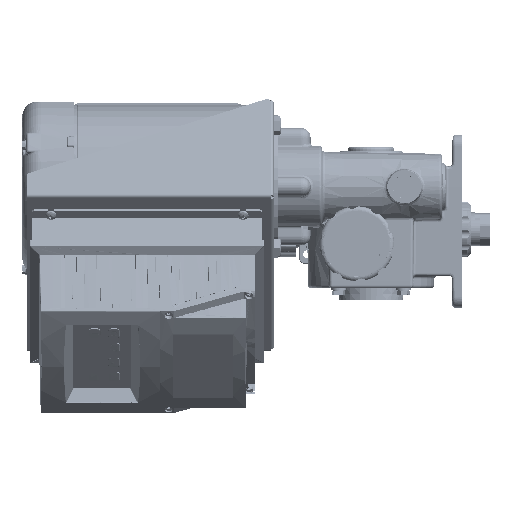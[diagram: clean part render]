
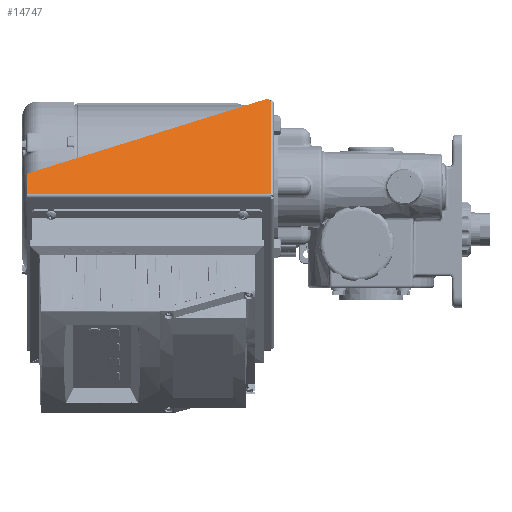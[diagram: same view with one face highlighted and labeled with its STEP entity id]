
A CAD part, left-side view. The second image highlights one B-rep face of the part: STEP entity #14747.
In plain terms, the highlighted planar face has unit normal (-0.707, 0, 0.707).
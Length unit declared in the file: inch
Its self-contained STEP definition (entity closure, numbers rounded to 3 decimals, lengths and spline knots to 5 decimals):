
#7869 = CARTESIAN_POINT ( 'NONE',  ( -9.07372, 12.03098, 0.36134 ) ) ;
#9640 = ORIENTED_EDGE ( 'NONE', *, *, #15162, .T. ) ;
#11804 = LINE ( 'NONE', #207948, #12913 ) ;
#12913 = VECTOR ( 'NONE', #208987, 39.37008 ) ;
#14747 = ADVANCED_FACE ( 'NONE', ( #114145 ), #34112, .F. ) ;
#15162 = EDGE_CURVE ( 'NONE', #165567, #117929, #100894, .T. ) ;
#24211 = CARTESIAN_POINT ( 'NONE',  ( -8.45254, 11.90598, 0.98251 ) ) ;
#25932 = DIRECTION ( 'NONE',  ( -0.285, 0.915, -0.285 ) ) ;
#29857 = DIRECTION ( 'NONE',  ( 0.707, 0., 0.707 ) ) ;
#31131 = VECTOR ( 'NONE', #124019, 39.37008 ) ;
#34112 = PLANE ( 'NONE',  #165275 ) ;
#38318 = DIRECTION ( 'NONE',  ( -0.707, 0., -0.707 ) ) ;
#41471 = DIRECTION ( 'NONE',  ( 0.707, 0., -0.707 ) ) ;
#41974 = VECTOR ( 'NONE', #25932, 39.37008 ) ;
#44216 = VERTEX_POINT ( 'NONE', #140973 ) ;
#51263 = EDGE_CURVE ( 'NONE', #79502, #117549, #11804, .T. ) ;
#52868 = VERTEX_POINT ( 'NONE', #161878 ) ;
#54003 = DIRECTION ( 'NONE',  ( -0.707, 0., -0.707 ) ) ;
#60019 = EDGE_CURVE ( 'NONE', #52868, #44216, #191187, .T. ) ;
#64533 = ORIENTED_EDGE ( 'NONE', *, *, #124169, .T. ) ;
#70253 = AXIS2_PLACEMENT_3D ( 'NONE', #24211, #186165, #170172 ) ;
#76767 = CARTESIAN_POINT ( 'NONE',  ( -8.45254, 12.03098, 0.98251 ) ) ;
#79502 = VERTEX_POINT ( 'NONE', #103666 ) ;
#82475 = EDGE_CURVE ( 'NONE', #44216, #165567, #174008, .T. ) ;
#88475 = CARTESIAN_POINT ( 'NONE',  ( -5.93393, 3.82098, 3.50113 ) ) ;
#90814 = EDGE_LOOP ( 'NONE', ( #180149, #137897, #172694, #130928, #9640, #64533 ) ) ;
#94806 = EDGE_CURVE ( 'NONE', #79502, #52868, #111995, .T. ) ;
#100894 = CIRCLE ( 'NONE', #70253, 0.125 ) ;
#103666 = CARTESIAN_POINT ( 'NONE',  ( -9.07372, 3.69598, 0.36134 ) ) ;
#111995 = LINE ( 'NONE', #190811, #128259 ) ;
#114145 = FACE_OUTER_BOUND ( 'NONE', #90814, .T. ) ;
#117549 = VERTEX_POINT ( 'NONE', #7869 ) ;
#117929 = VERTEX_POINT ( 'NONE', #76767 ) ;
#124019 = DIRECTION ( 'NONE',  ( -0.707, 0., -0.707 ) ) ;
#124169 = EDGE_CURVE ( 'NONE', #117929, #117549, #138958, .T. ) ;
#128259 = VECTOR ( 'NONE', #29857, 39.37008 ) ;
#130928 = ORIENTED_EDGE ( 'NONE', *, *, #82475, .T. ) ;
#137897 = ORIENTED_EDGE ( 'NONE', *, *, #94806, .T. ) ;
#138930 = CARTESIAN_POINT ( 'NONE',  ( -5.85304, 3.87137, 3.58202 ) ) ;
#138958 = LINE ( 'NONE', #141045, #31131 ) ;
#140973 = CARTESIAN_POINT ( 'NONE',  ( -5.85304, 3.87137, 3.58202 ) ) ;
#141045 = CARTESIAN_POINT ( 'NONE',  ( -5.93393, 12.03098, 3.50113 ) ) ;
#161878 = CARTESIAN_POINT ( 'NONE',  ( -5.93393, 3.69598, 3.50113 ) ) ;
#165275 = AXIS2_PLACEMENT_3D ( 'NONE', #88475, #41471, #38318 ) ;
#165567 = VERTEX_POINT ( 'NONE', #199022 ) ;
#166967 = DIRECTION ( 'NONE',  ( -0.707, 0., 0.707 ) ) ;
#170172 = DIRECTION ( 'NONE',  ( -0.707, 0., -0.707 ) ) ;
#172694 = ORIENTED_EDGE ( 'NONE', *, *, #60019, .T. ) ;
#174008 = LINE ( 'NONE', #138930, #41974 ) ;
#180149 = ORIENTED_EDGE ( 'NONE', *, *, #51263, .F. ) ;
#180962 = AXIS2_PLACEMENT_3D ( 'NONE', #188224, #166967, #54003 ) ;
#186165 = DIRECTION ( 'NONE',  ( -0.707, 0., 0.707 ) ) ;
#188224 = CARTESIAN_POINT ( 'NONE',  ( -5.93393, 3.82098, 3.50113 ) ) ;
#190811 = CARTESIAN_POINT ( 'NONE',  ( -5.93393, 3.69598, 3.50113 ) ) ;
#191187 = CIRCLE ( 'NONE', #180962, 0.125 ) ;
#199022 = CARTESIAN_POINT ( 'NONE',  ( -8.37166, 11.95637, 1.0634 ) ) ;
#207948 = CARTESIAN_POINT ( 'NONE',  ( -9.07372, 12.03098, 0.36134 ) ) ;
#208987 = DIRECTION ( 'NONE',  ( 0., 1., 0. ) ) ;
